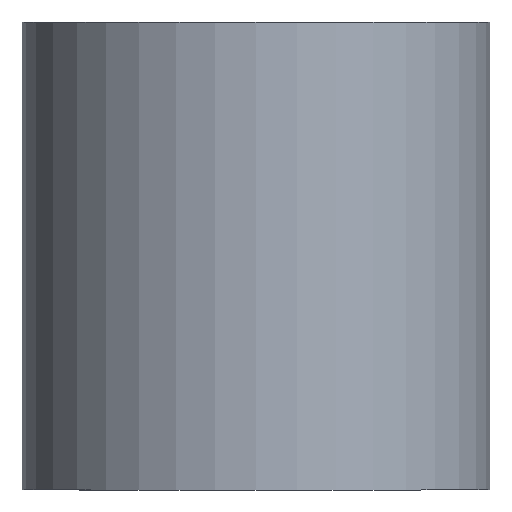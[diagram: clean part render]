
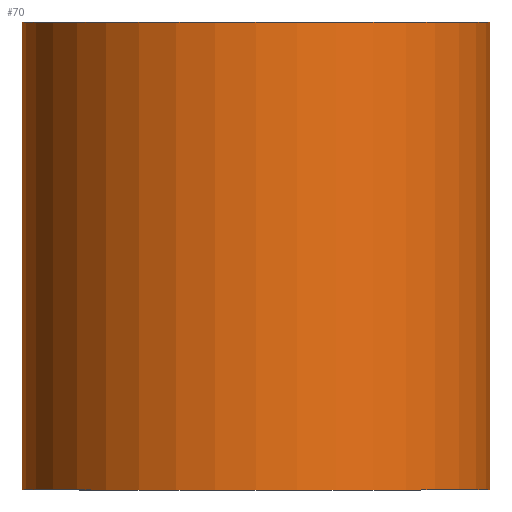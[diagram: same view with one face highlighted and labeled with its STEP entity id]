
A CAD part, front view. The second image highlights one B-rep face of the part: STEP entity #70.
In plain terms, the highlighted cylindrical face has radius 15 mm (diameter 30 mm), a full revolution.
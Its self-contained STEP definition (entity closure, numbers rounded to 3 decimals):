
#14=FACE_BOUND('',#25,.T.);
#15=CYLINDRICAL_SURFACE('',#92,15.);
#19=FACE_OUTER_BOUND('',#24,.T.);
#24=EDGE_LOOP('',(#51,#52));
#25=EDGE_LOOP('',(#53,#54));
#27=CIRCLE('',#87,15.);
#28=CIRCLE('',#89,15.);
#29=CIRCLE('',#91,15.);
#30=CIRCLE('',#93,15.);
#35=VERTEX_POINT('',#119);
#36=VERTEX_POINT('',#120);
#37=VERTEX_POINT('',#124);
#38=VERTEX_POINT('',#125);
#40=EDGE_CURVE('',#36,#35,#27,.T.);
#42=EDGE_CURVE('',#38,#37,#28,.T.);
#43=EDGE_CURVE('',#35,#36,#29,.T.);
#44=EDGE_CURVE('',#37,#38,#30,.T.);
#51=ORIENTED_EDGE('',*,*,#43,.T.);
#52=ORIENTED_EDGE('',*,*,#40,.T.);
#53=ORIENTED_EDGE('',*,*,#44,.T.);
#54=ORIENTED_EDGE('',*,*,#42,.T.);
#70=ADVANCED_FACE('',(#19,#14),#15,.T.);
#87=AXIS2_PLACEMENT_3D('',#122,#100,#101);
#89=AXIS2_PLACEMENT_3D('',#127,#105,#106);
#91=AXIS2_PLACEMENT_3D('',#129,#109,#110);
#92=AXIS2_PLACEMENT_3D('',#130,#111,#112);
#93=AXIS2_PLACEMENT_3D('',#131,#113,#114);
#100=DIRECTION('center_axis',(0.,0.,
-1.));
#101=DIRECTION('ref_axis',(-0.503,0.864,0.));
#105=DIRECTION('center_axis',(0.,0.,
1.));
#106=DIRECTION('ref_axis',(-0.503,0.864,0.));
#109=DIRECTION('center_axis',(0.,0.,
-1.));
#110=DIRECTION('ref_axis',(-0.503,0.864,0.));
#111=DIRECTION('center_axis',(0.,0.,
-1.));
#112=DIRECTION('ref_axis',(-0.503,0.864,0.));
#113=DIRECTION('center_axis',(0.,0.,
1.));
#114=DIRECTION('ref_axis',(-0.503,0.864,0.));
#119=CARTESIAN_POINT('',(651.,949.855,15.));
#120=CARTESIAN_POINT('',(621.,949.855,15.));
#122=CARTESIAN_POINT('Origin',(636.,949.855,15.));
#124=CARTESIAN_POINT('',(621.,949.855,-15.));
#125=CARTESIAN_POINT('',(651.,949.855,-15.));
#127=CARTESIAN_POINT('Origin',(636.,949.855,-15.));
#129=CARTESIAN_POINT('Origin',(636.,949.855,15.));
#130=CARTESIAN_POINT('Origin',(636.,949.855,0.));
#131=CARTESIAN_POINT('Origin',(636.,949.855,-15.));
